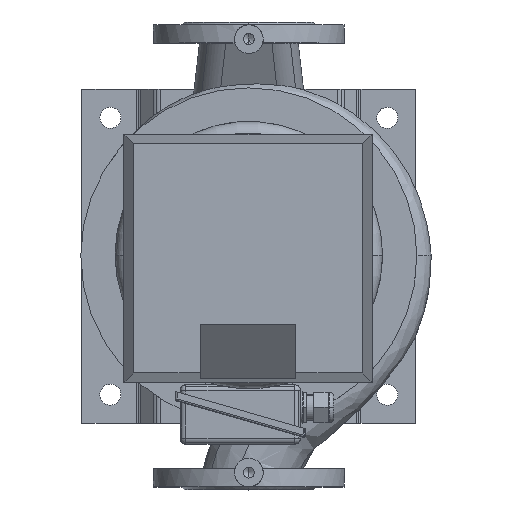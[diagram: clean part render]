
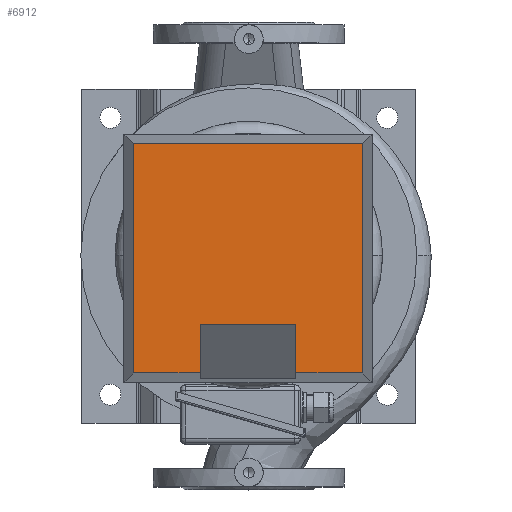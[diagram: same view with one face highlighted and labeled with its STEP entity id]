
A CAD part, top view. The second image highlights one B-rep face of the part: STEP entity #6912.
In plain terms, the highlighted planar face has unit normal (0, 0, 1) as drawn and (0, 1, 0) by its records, which use the part's own axes.
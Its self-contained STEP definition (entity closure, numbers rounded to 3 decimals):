
#6912=ADVANCED_FACE('',(#13292),#13293,.T.);
#6922=EDGE_CURVE('',#13308,#13305,#13309,.T.);
#13292=FACE_OUTER_BOUND('',#27184,.T.);
#13293=PLANE('',#27185);
#13305=VERTEX_POINT('',#27198);
#13308=VERTEX_POINT('',#27203);
#13309=LINE('',#27204,#27205);
#27184=EDGE_LOOP('',(#36452,#36453,#36454,#36455,#36456,#36457,#36458,#36459));
#27185=AXIS2_PLACEMENT_3D('',#36460,#36461,#36462);
#27198=CARTESIAN_POINT('',(-50.0,90.0,199.485));
#27203=CARTESIAN_POINT('',(-50.0,90.0,250.0));
#27204=CARTESIAN_POINT('',(-50.0,90.0,127.834));
#27205=VECTOR('',#36488,1.0);
#36452=ORIENTED_EDGE('',*,*,#37868,.T.);
#36453=ORIENTED_EDGE('',*,*,#37874,.F.);
#36454=ORIENTED_EDGE('',*,*,#37882,.F.);
#36455=ORIENTED_EDGE('',*,*,#37884,.F.);
#36456=ORIENTED_EDGE('',*,*,#37876,.F.);
#36457=ORIENTED_EDGE('',*,*,#37870,.F.);
#36458=ORIENTED_EDGE('',*,*,#6922,.T.);
#36459=ORIENTED_EDGE('',*,*,#37864,.T.);
#36460=CARTESIAN_POINT('',(0.0,90.0,0.0));
#36461=DIRECTION('',(0.0,1.0,-0.0));
#36462=DIRECTION('',(-1.0,0.0,0.0));
#36488=DIRECTION('',(0.0,-0.0,-1.0));
#37864=EDGE_CURVE('',#13305,#39538,#39541,.T.);
#37868=EDGE_CURVE('',#39538,#39544,#39546,.T.);
#37870=EDGE_CURVE('',#13308,#39548,#39549,.T.);
#37874=EDGE_CURVE('',#39554,#39544,#39556,.T.);
#37876=EDGE_CURVE('',#39548,#39558,#39559,.T.);
#37882=EDGE_CURVE('',#39564,#39554,#39566,.T.);
#37884=EDGE_CURVE('',#39558,#39564,#39568,.T.);
#39538=VERTEX_POINT('',#43841);
#39541=LINE('',#43845,#43846);
#39544=VERTEX_POINT('',#43850);
#39546=LINE('',#43853,#43854);
#39548=VERTEX_POINT('',#43856);
#39549=LINE('',#43857,#43858);
#39554=VERTEX_POINT('',#43865);
#39556=LINE('',#43868,#43869);
#39558=VERTEX_POINT('',#43871);
#39559=LINE('',#43872,#43873);
#39564=VERTEX_POINT('',#43881);
#39566=LINE('',#43884,#43885);
#39568=LINE('',#43887,#43888);
#43841=CARTESIAN_POINT('',(50.0,90.0,199.485));
#43845=CARTESIAN_POINT('',(-25.0,90.0,199.485));
#43846=VECTOR('',#44677,1.0);
#43850=CARTESIAN_POINT('',(50.0,90.0,250.0));
#43853=CARTESIAN_POINT('',(50.0,90.0,127.834));
#43854=VECTOR('',#44680,1.0);
#43856=CARTESIAN_POINT('',(-120.0,90.0,250.0));
#43857=CARTESIAN_POINT('',(65.0,90.0,250.0));
#43858=VECTOR('',#44681,1.0);
#43865=CARTESIAN_POINT('',(120.0,90.0,250.0));
#43868=CARTESIAN_POINT('',(65.0,90.0,250.0));
#43869=VECTOR('',#44685,1.0);
#43871=CARTESIAN_POINT('',(-120.0,90.0,10.0));
#43872=CARTESIAN_POINT('',(-120.0,90.0,0.0));
#43873=VECTOR('',#44686,1.0);
#43881=CARTESIAN_POINT('',(120.0,90.0,10.0));
#43884=CARTESIAN_POINT('',(120.0,90.0,0.0));
#43885=VECTOR('',#44691,1.0);
#43887=CARTESIAN_POINT('',(65.0,90.0,10.0));
#43888=VECTOR('',#44692,1.0);
#44677=DIRECTION('',(1.0,0.0,0.0));
#44680=DIRECTION('',(-0.0,0.0,1.0));
#44681=DIRECTION('',(-1.0,0.0,-0.0));
#44685=DIRECTION('',(-1.0,0.0,-0.0));
#44686=DIRECTION('',(-0.0,-0.0,-1.0));
#44691=DIRECTION('',(-0.0,0.0,1.0));
#44692=DIRECTION('',(1.0,-0.0,-0.0));
